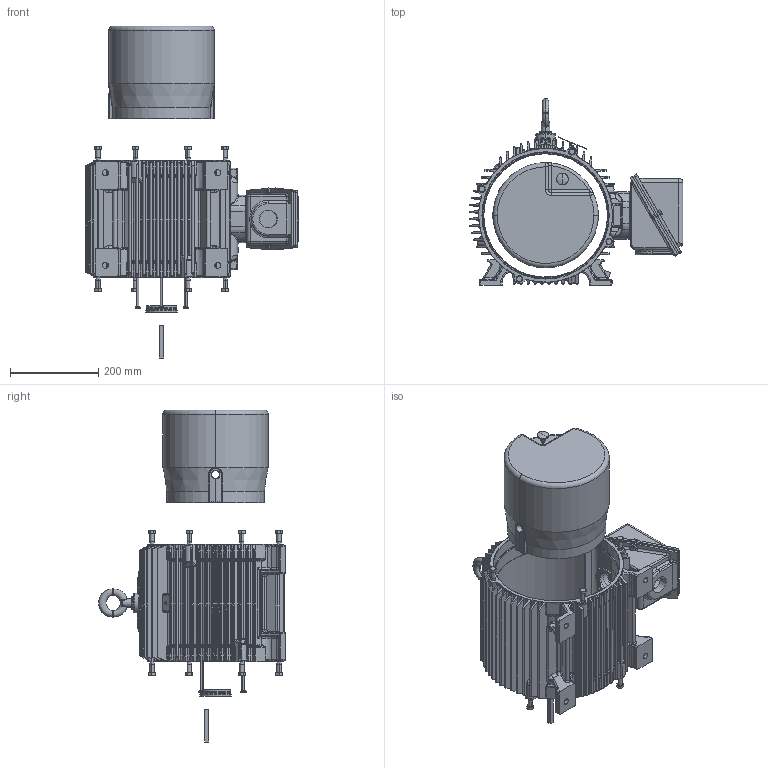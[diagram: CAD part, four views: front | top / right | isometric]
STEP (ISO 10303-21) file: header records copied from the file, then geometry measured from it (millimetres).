
FILE_DESCRIPTION (( 'STEP AP203' ), '1' );
FILE_NAME ('SS209612-1050_RevB.STEP', '2022-12-15T04:32:16', ( '' ), ( '' ), 'SwSTEP 2.0', 'SolidWorks 2021', '' );
FILE_SCHEMA (( 'CONFIG_CONTROL_DESIGN' ));
Products named in the file (1): SS209612-1050_RevB
Bounding box: 483.92 x 422.43 x 750.92 mm (x, y, z)
Volume: 8961642.6 mm3; surface area: 1980825.7 mm2
Topology: 34 solids, 34 shells, 3242 faces, 7961 edges, 4717 vertices
Faces by surface type: cylinder 1044, bspline 684, plane 658, cone 312, torus 305, sphere 239
Entity records: 191483 total; most frequent: CARTESIAN_POINT 89834, ORIENTED_EDGE 22718, DIRECTION 19729, EDGE_CURVE 11359, AXIS2_PLACEMENT_3D 8212, VERTEX_POINT 6825, EDGE_LOOP 4972, ADVANCED_FACE 4700
